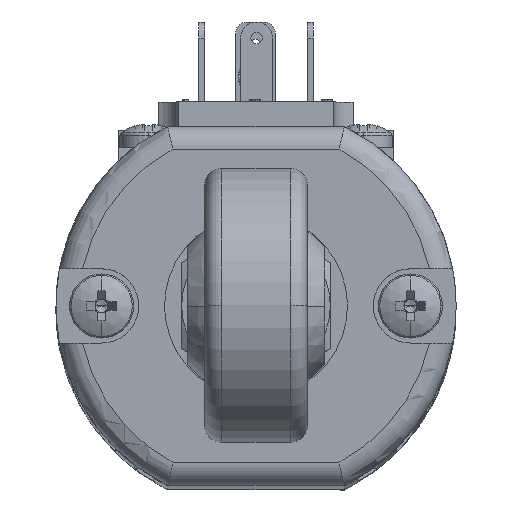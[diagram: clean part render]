
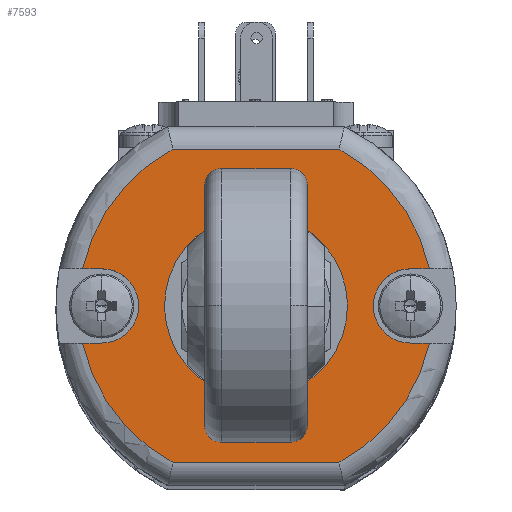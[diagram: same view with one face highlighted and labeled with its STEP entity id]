
A CAD part, top view. The second image highlights one B-rep face of the part: STEP entity #7593.
In plain terms, the highlighted planar face has unit normal (0, 0, 1) as drawn and (0, 0, -1) by its records, which use the part's own axes.
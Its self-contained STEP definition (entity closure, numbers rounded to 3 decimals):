
#2 = VERTEX_POINT ( 'NONE', #21667 ) ;
#175 = AXIS2_PLACEMENT_3D ( 'NONE', #10266, #28648, #12903 ) ;
#787 = CARTESIAN_POINT ( 'NONE',  ( -15.155, -3.25, 0. ) ) ;
#1028 = CIRCLE ( 'NONE', #10754, 3.25 ) ;
#1061 = LINE ( 'NONE', #33437, #8113 ) ;
#1185 = AXIS2_PLACEMENT_3D ( 'NONE', #21815, #6045, #24441 ) ;
#1408 = DIRECTION ( 'NONE',  ( 0., 0., -1. ) ) ;
#1498 = EDGE_LOOP ( 'NONE', ( #23462, #10775 ) ) ;
#1979 = ORIENTED_EDGE ( 'NONE', *, *, #27029, .T. ) ;
#2005 = CARTESIAN_POINT ( 'NONE',  ( -13.5, 3.25, 0. ) ) ;
#2043 = ORIENTED_EDGE ( 'NONE', *, *, #13764, .T. ) ;
#2174 = VECTOR ( 'NONE', #16851, 1000. ) ;
#2182 = DIRECTION ( 'NONE',  ( 0., 0., -1. ) ) ;
#2814 = LINE ( 'NONE', #2005, #30004 ) ;
#3424 = DIRECTION ( 'NONE',  ( 0., 0., -1. ) ) ;
#3725 = EDGE_CURVE ( 'NONE', #19443, #18842, #18848, .T. ) ;
#3851 = LINE ( 'NONE', #25172, #17056 ) ;
#3922 = CARTESIAN_POINT ( 'NONE',  ( 13.5, 0., 0. ) ) ;
#3971 = AXIS2_PLACEMENT_3D ( 'NONE', #14254, #32632, #16895 ) ;
#4002 = CARTESIAN_POINT ( 'NONE',  ( -13.5, -3.25, 0. ) ) ;
#4004 = ORIENTED_EDGE ( 'NONE', *, *, #13162, .T. ) ;
#4206 = EDGE_CURVE ( 'NONE', #15214, #22852, #14289, .T. ) ;
#4231 = VERTEX_POINT ( 'NONE', #22026 ) ;
#4438 = CARTESIAN_POINT ( 'NONE',  ( 0., 0., 0. ) ) ;
#4880 = EDGE_LOOP ( 'NONE', ( #2043, #30553, #32381, #17788, #17208, #24011, #32791, #12429, #14562, #14593, #27379, #4004, #1979 ) ) ;
#5891 = CIRCLE ( 'NONE', #175, 3.25 ) ;
#6004 = EDGE_CURVE ( 'NONE', #22682, #29074, #2814, .T. ) ;
#6045 = DIRECTION ( 'NONE',  ( 0., 0., -1. ) ) ;
#6610 = DIRECTION ( 'NONE',  ( -1., 0., 0. ) ) ;
#7118 = DIRECTION ( 'NONE',  ( 1., 0., 0. ) ) ;
#7309 = VECTOR ( 'NONE', #33235, 1000. ) ;
#7593 = ADVANCED_FACE ( 'NONE', ( #25051, #32034 ), #15651, .F. ) ;
#8113 = VECTOR ( 'NONE', #17686, 1000. ) ;
#8303 = CARTESIAN_POINT ( 'NONE',  ( -13.5, 3.25, 0. ) ) ;
#8797 = CIRCLE ( 'NONE', #1185, 15.5 ) ;
#8840 = EDGE_CURVE ( 'NONE', #29074, #33975, #26194, .T. ) ;
#9195 = LINE ( 'NONE', #29932, #2174 ) ;
#9957 = VERTEX_POINT ( 'NONE', #787 ) ;
#10266 = CARTESIAN_POINT ( 'NONE',  ( 13.5, 0., 0. ) ) ;
#10754 = AXIS2_PLACEMENT_3D ( 'NONE', #3922, #22362, #6610 ) ;
#10775 = ORIENTED_EDGE ( 'NONE', *, *, #3725, .F. ) ;
#11137 = DIRECTION ( 'NONE',  ( -1., 0., 0. ) ) ;
#11757 = CARTESIAN_POINT ( 'NONE',  ( 0., 0., 0. ) ) ;
#11763 = LINE ( 'NONE', #32188, #17964 ) ;
#12189 = CARTESIAN_POINT ( 'NONE',  ( 13.5, 3.25, 0. ) ) ;
#12269 = CARTESIAN_POINT ( 'NONE',  ( 10.25, 0., 0. ) ) ;
#12429 = ORIENTED_EDGE ( 'NONE', *, *, #4206, .F. ) ;
#12903 = DIRECTION ( 'NONE',  ( -1., 0., 0. ) ) ;
#13162 = EDGE_CURVE ( 'NONE', #31093, #32670, #19447, .T. ) ;
#13242 = VERTEX_POINT ( 'NONE', #30379 ) ;
#13664 = CARTESIAN_POINT ( 'NONE',  ( 13.5, 3.25, 0. ) ) ;
#13764 = EDGE_CURVE ( 'NONE', #4231, #9957, #31731, .T. ) ;
#14254 = CARTESIAN_POINT ( 'NONE',  ( -13.5, 0., 0. ) ) ;
#14289 = LINE ( 'NONE', #12189, #7309 ) ;
#14405 = DIRECTION ( 'NONE',  ( 1., 0., 0. ) ) ;
#14562 = ORIENTED_EDGE ( 'NONE', *, *, #24474, .F. ) ;
#14593 = ORIENTED_EDGE ( 'NONE', *, *, #26410, .F. ) ;
#15214 = VERTEX_POINT ( 'NONE', #13664 ) ;
#15427 = EDGE_CURVE ( 'NONE', #18842, #19443, #29150, .T. ) ;
#15489 = CARTESIAN_POINT ( 'NONE',  ( -15.155, 3.25, 0. ) ) ;
#15651 = PLANE ( 'NONE',  #30189 ) ;
#16373 = CARTESIAN_POINT ( 'NONE',  ( -6.5, 0., 0. ) ) ;
#16851 = DIRECTION ( 'NONE',  ( -1., 0., 0. ) ) ;
#16895 = DIRECTION ( 'NONE',  ( 1., 0., 0. ) ) ;
#17056 = VECTOR ( 'NONE', #22542, 1000. ) ;
#17208 = ORIENTED_EDGE ( 'NONE', *, *, #33834, .T. ) ;
#17228 = CARTESIAN_POINT ( 'NONE',  ( 0., 0., 0. ) ) ;
#17686 = DIRECTION ( 'NONE',  ( 1., 0., 0. ) ) ;
#17788 = ORIENTED_EDGE ( 'NONE', *, *, #6004, .F. ) ;
#17964 = VECTOR ( 'NONE', #11137, 1000. ) ;
#18010 = CARTESIAN_POINT ( 'NONE',  ( 0., 0., 0. ) ) ;
#18305 = DIRECTION ( 'NONE',  ( 1., 0., 0. ) ) ;
#18482 = EDGE_CURVE ( 'NONE', #33975, #9957, #11763, .T. ) ;
#18754 = CARTESIAN_POINT ( 'NONE',  ( 7.25, -13.7, 0. ) ) ;
#18842 = VERTEX_POINT ( 'NONE', #16373 ) ;
#18848 = CIRCLE ( 'NONE', #21490, 6.5 ) ;
#19158 = CIRCLE ( 'NONE', #20911, 15.5 ) ;
#19224 = CARTESIAN_POINT ( 'NONE',  ( 0., 0., 0. ) ) ;
#19443 = VERTEX_POINT ( 'NONE', #22199 ) ;
#19447 = CIRCLE ( 'NONE', #32189, 15.5 ) ;
#19528 = EDGE_CURVE ( 'NONE', #31093, #21498, #3851, .T. ) ;
#19877 = DIRECTION ( 'NONE',  ( -1., 0., 0. ) ) ;
#19887 = EDGE_CURVE ( 'NONE', #13242, #22852, #8797, .T. ) ;
#20460 = DIRECTION ( 'NONE',  ( 1., 0., 0. ) ) ;
#20628 = DIRECTION ( 'NONE',  ( -1., 0., 0. ) ) ;
#20911 = AXIS2_PLACEMENT_3D ( 'NONE', #19224, #3424, #21866 ) ;
#21418 = AXIS2_PLACEMENT_3D ( 'NONE', #4438, #22857, #7118 ) ;
#21490 = AXIS2_PLACEMENT_3D ( 'NONE', #18010, #2182, #20628 ) ;
#21498 = VERTEX_POINT ( 'NONE', #23482 ) ;
#21667 = CARTESIAN_POINT ( 'NONE',  ( -7.25, 13.7, 0. ) ) ;
#21815 = CARTESIAN_POINT ( 'NONE',  ( 0., 0., 0. ) ) ;
#21866 = DIRECTION ( 'NONE',  ( 1., 0., 0. ) ) ;
#22026 = CARTESIAN_POINT ( 'NONE',  ( -7.25, -13.7, 0. ) ) ;
#22199 = CARTESIAN_POINT ( 'NONE',  ( 6.5, 0., 0. ) ) ;
#22362 = DIRECTION ( 'NONE',  ( 0., 0., -1. ) ) ;
#22542 = DIRECTION ( 'NONE',  ( -1., 0., 0. ) ) ;
#22682 = VERTEX_POINT ( 'NONE', #15489 ) ;
#22784 = AXIS2_PLACEMENT_3D ( 'NONE', #17228, #1408, #19877 ) ;
#22852 = VERTEX_POINT ( 'NONE', #29469 ) ;
#22857 = DIRECTION ( 'NONE',  ( 0., 0., -1. ) ) ;
#23462 = ORIENTED_EDGE ( 'NONE', *, *, #15427, .F. ) ;
#23482 = CARTESIAN_POINT ( 'NONE',  ( 13.5, -3.25, 0. ) ) ;
#23922 = VERTEX_POINT ( 'NONE', #12269 ) ;
#23937 = EDGE_CURVE ( 'NONE', #2, #13242, #1061, .T. ) ;
#24011 = ORIENTED_EDGE ( 'NONE', *, *, #23937, .T. ) ;
#24441 = DIRECTION ( 'NONE',  ( 1., 0., 0. ) ) ;
#24474 = EDGE_CURVE ( 'NONE', #23922, #15214, #1028, .T. ) ;
#25051 = FACE_OUTER_BOUND ( 'NONE', #4880, .T. ) ;
#25172 = CARTESIAN_POINT ( 'NONE',  ( 19.369, -3.25, 0. ) ) ;
#25990 = CARTESIAN_POINT ( 'NONE',  ( 0., 0., 0. ) ) ;
#26194 = CIRCLE ( 'NONE', #3971, 3.25 ) ;
#26410 = EDGE_CURVE ( 'NONE', #21498, #23922, #5891, .T. ) ;
#26731 = CARTESIAN_POINT ( 'NONE',  ( 15.155, -3.25, 0. ) ) ;
#27029 = EDGE_CURVE ( 'NONE', #32670, #4231, #9195, .T. ) ;
#27379 = ORIENTED_EDGE ( 'NONE', *, *, #19528, .F. ) ;
#28648 = DIRECTION ( 'NONE',  ( 0., 0., -1. ) ) ;
#29074 = VERTEX_POINT ( 'NONE', #8303 ) ;
#29150 = CIRCLE ( 'NONE', #22784, 6.5 ) ;
#29469 = CARTESIAN_POINT ( 'NONE',  ( 15.155, 3.25, 0. ) ) ;
#29932 = CARTESIAN_POINT ( 'NONE',  ( 0., -13.7, 0. ) ) ;
#30004 = VECTOR ( 'NONE', #20460, 1000. ) ;
#30147 = DIRECTION ( 'NONE',  ( 0., 0., -1. ) ) ;
#30189 = AXIS2_PLACEMENT_3D ( 'NONE', #25990, #34044, #18305 ) ;
#30379 = CARTESIAN_POINT ( 'NONE',  ( 7.25, 13.7, 0. ) ) ;
#30553 = ORIENTED_EDGE ( 'NONE', *, *, #18482, .F. ) ;
#31093 = VERTEX_POINT ( 'NONE', #26731 ) ;
#31731 = CIRCLE ( 'NONE', #21418, 15.5 ) ;
#32034 = FACE_BOUND ( 'NONE', #1498, .T. ) ;
#32188 = CARTESIAN_POINT ( 'NONE',  ( -19.369, -3.25, 0. ) ) ;
#32189 = AXIS2_PLACEMENT_3D ( 'NONE', #11757, #30147, #14405 ) ;
#32381 = ORIENTED_EDGE ( 'NONE', *, *, #8840, .F. ) ;
#32632 = DIRECTION ( 'NONE',  ( 0., 0., -1. ) ) ;
#32670 = VERTEX_POINT ( 'NONE', #18754 ) ;
#32791 = ORIENTED_EDGE ( 'NONE', *, *, #19887, .T. ) ;
#33235 = DIRECTION ( 'NONE',  ( 1., 0., 0. ) ) ;
#33437 = CARTESIAN_POINT ( 'NONE',  ( 0., 13.7, 0. ) ) ;
#33834 = EDGE_CURVE ( 'NONE', #22682, #2, #19158, .T. ) ;
#33975 = VERTEX_POINT ( 'NONE', #4002 ) ;
#34044 = DIRECTION ( 'NONE',  ( 0., 0., 1. ) ) ;
